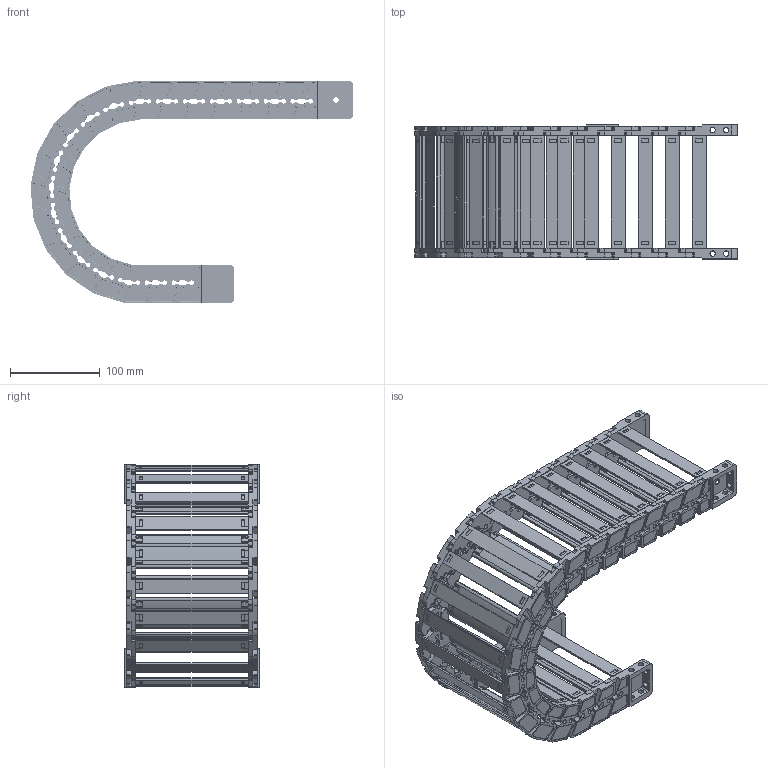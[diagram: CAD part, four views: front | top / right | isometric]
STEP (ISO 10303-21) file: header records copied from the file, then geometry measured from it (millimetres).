
FILE_DESCRIPTION((''),'2;1');
FILE_NAME('JY-35X125-R100_ASM','2025-01-05T19:29:16',('admin'),(''),'CREO PARAMETRIC BY PTC INC, 2021023','CREO PARAMETRIC BY PTC INC, 2021023','');
FILE_SCHEMA(('CONFIG_CONTROL_DESIGN'));
Length unit declared in the file: millimetre
Products named in the file (11): 35XL-L; YP; 35XL-R; ASM0001_ASM; 35-LTT-A-L; 35-LTT-A-R; 35XL-LTT-A_ASM; 35-LTT-B-L; 35-LTT-B-R; 35XL-LTT-B_ASM; JY-35X125-R100_ASM
Assembly tree (32 placements, depth 3):
  JY-35X125-R100_ASM
    ASM0001_ASM  x18
      35XL-L
      YP
      35XL-R
    35XL-LTT-A_ASM
      35-LTT-A-L
      YP  x2
      35-LTT-A-R
    35XL-LTT-B_ASM
      35-LTT-B-L
      YP  x2
      35-LTT-B-R
Bounding box: 359.13 x 149.5 x 247.81 mm (x, y, z)
Volume: 689577.5 mm3; surface area: 423495.5 mm2
Topology: 80 solids, 80 shells, 6520 faces, 19542 edges, 13190 vertices
Faces by surface type: plane 3688, cylinder 2148, cone 418, extrusion 152, bspline 114
Entity records: 27866 total; most frequent: CARTESIAN_POINT 6165, ORIENTED_EDGE 4640, DIRECTION 4359, EDGE_CURVE 2320, VERTEX_POINT 1568, AXIS2_PLACEMENT_3D 1471, VECTOR 1417, LINE 1401
